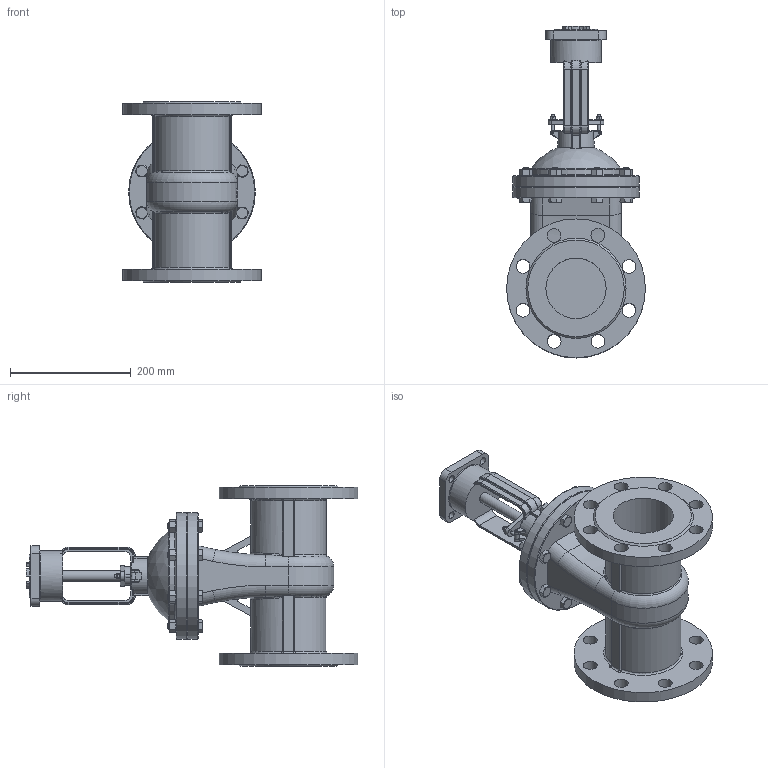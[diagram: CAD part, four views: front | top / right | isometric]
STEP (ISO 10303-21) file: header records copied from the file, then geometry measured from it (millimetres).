
FILE_DESCRIPTION(('STEP AP242'), '1');
FILE_NAME('GVWR2434M-2W-F-ÎÑÒ Çàäâèæêà êëèíîâàÿ ñ âûäâèæíûì øòîêîì Äó100 Ðó25', '2026-05-30T14:09:00', ('R2D2'), (''), 'C3D Converter', 'C3D Toolkit', '');
FILE_SCHEMA(('AP242_MANAGED_MODEL_BASED_3D_ENGINEERING_MIM_LF { 1 0 10303 442 1 1 4 }'));
Length unit declared in the file: millimetre
Products named in the file (1): GVWR2434M-2W-F-ОСТ
Bounding box: 230 x 550 x 300 mm (x, y, z)
Volume: 6793386.2 mm3; surface area: 614488.5 mm2
Topology: 1 solids, 1 shells, 839 faces, 2177 edges, 1395 vertices
Faces by surface type: plane 383, cylinder 179, extrusion 106, torus 67, cone 64, bspline 39, sphere 1
Full cylindrical faces by diameter (mm): 3 x3, 5 x4, 8 x2, 12 x20, 18 x2, 20 x1, 23 x16, 30 x1, 32 x1, 50 x1, 52 x1, 70 x1, 84.405 x1, 100 x2, 150 x2, 210 x2, 230 x2
Entity records: 51314 total; most frequent: CARTESIAN_POINT 25224, ORIENTED_EDGE 4146, DIRECTION 3446, EDGE_CURVE 2073, VERTEX_POINT 1393, AXIS2_PLACEMENT_3D 1227, EDGE_LOOP 1070, VECTOR 992
